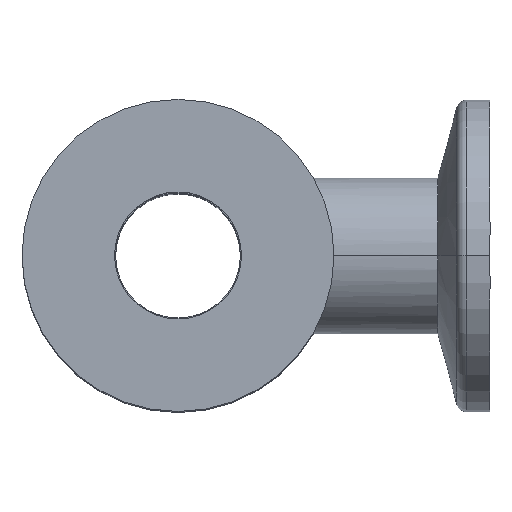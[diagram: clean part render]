
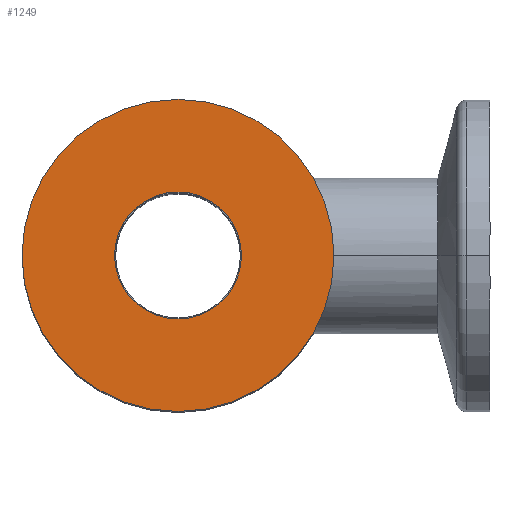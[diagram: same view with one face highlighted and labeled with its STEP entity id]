
A CAD part, top view. The second image highlights one B-rep face of the part: STEP entity #1249.
In plain terms, the highlighted planar face has unit normal (0, 0, 1).
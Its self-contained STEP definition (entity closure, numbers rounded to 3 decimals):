
#2 = CARTESIAN_POINT ( 'NONE',  ( 0., 0., 0. ) ) ;
#57 = ORIENTED_EDGE ( 'NONE', *, *, #1547, .F. ) ;
#74 = CIRCLE ( 'NONE', #530, 6.1 ) ;
#131 = FACE_OUTER_BOUND ( 'NONE', #1268, .T. ) ;
#140 = VERTEX_POINT ( 'NONE', #716 ) ;
#141 = DIRECTION ( 'NONE',  ( 1., 0., 0. ) ) ;
#254 = EDGE_CURVE ( 'NONE', #140, #1409, #74, .T. ) ;
#265 = DIRECTION ( 'NONE',  ( 1., 0., 0. ) ) ;
#330 = DIRECTION ( 'NONE',  ( 0., 0., 1. ) ) ;
#367 = CIRCLE ( 'NONE', #1396, 6.1 ) ;
#384 = CARTESIAN_POINT ( 'NONE',  ( -15., 0., 0. ) ) ;
#412 = ORIENTED_EDGE ( 'NONE', *, *, #807, .T. ) ;
#414 = CIRCLE ( 'NONE', #785, 15. ) ;
#448 = DIRECTION ( 'NONE',  ( 1., 0., 0. ) ) ;
#461 = EDGE_LOOP ( 'NONE', ( #1382, #57 ) ) ;
#530 = AXIS2_PLACEMENT_3D ( 'NONE', #1399, #330, #141 ) ;
#580 = VERTEX_POINT ( 'NONE', #663 ) ;
#663 = CARTESIAN_POINT ( 'NONE',  ( 15., 0., 0. ) ) ;
#677 = ORIENTED_EDGE ( 'NONE', *, *, #1427, .T. ) ;
#716 = CARTESIAN_POINT ( 'NONE',  ( 6.1, 0., 0. ) ) ;
#785 = AXIS2_PLACEMENT_3D ( 'NONE', #2, #1694, #448 ) ;
#807 = EDGE_CURVE ( 'NONE', #580, #1232, #414, .T. ) ;
#850 = CARTESIAN_POINT ( 'NONE',  ( 0., 0., 0. ) ) ;
#881 = DIRECTION ( 'NONE',  ( 1., 0., 0. ) ) ;
#952 = CARTESIAN_POINT ( 'NONE',  ( -6.1, 0., 0. ) ) ;
#989 = DIRECTION ( 'NONE',  ( 1., 0., 0. ) ) ;
#1129 = AXIS2_PLACEMENT_3D ( 'NONE', #850, #1559, #989 ) ;
#1211 = PLANE ( 'NONE',  #1734 ) ;
#1232 = VERTEX_POINT ( 'NONE', #384 ) ;
#1249 = ADVANCED_FACE ( 'NONE', ( #131, #1797 ), #1211, .T. ) ;
#1268 = EDGE_LOOP ( 'NONE', ( #412, #677 ) ) ;
#1382 = ORIENTED_EDGE ( 'NONE', *, *, #254, .F. ) ;
#1396 = AXIS2_PLACEMENT_3D ( 'NONE', #1752, #1593, #881 ) ;
#1399 = CARTESIAN_POINT ( 'NONE',  ( 0., 0., 0. ) ) ;
#1409 = VERTEX_POINT ( 'NONE', #952 ) ;
#1427 = EDGE_CURVE ( 'NONE', #1232, #580, #1585, .T. ) ;
#1488 = DIRECTION ( 'NONE',  ( 0., 0., 1. ) ) ;
#1547 = EDGE_CURVE ( 'NONE', #1409, #140, #367, .T. ) ;
#1559 = DIRECTION ( 'NONE',  ( 0., 0., 1. ) ) ;
#1585 = CIRCLE ( 'NONE', #1129, 15. ) ;
#1593 = DIRECTION ( 'NONE',  ( 0., 0., 1. ) ) ;
#1626 = CARTESIAN_POINT ( 'NONE',  ( 0., 15., 0. ) ) ;
#1694 = DIRECTION ( 'NONE',  ( 0., 0., 1. ) ) ;
#1734 = AXIS2_PLACEMENT_3D ( 'NONE', #1626, #1488, #265 ) ;
#1752 = CARTESIAN_POINT ( 'NONE',  ( 0., 0., 0. ) ) ;
#1797 = FACE_BOUND ( 'NONE', #461, .T. ) ;
